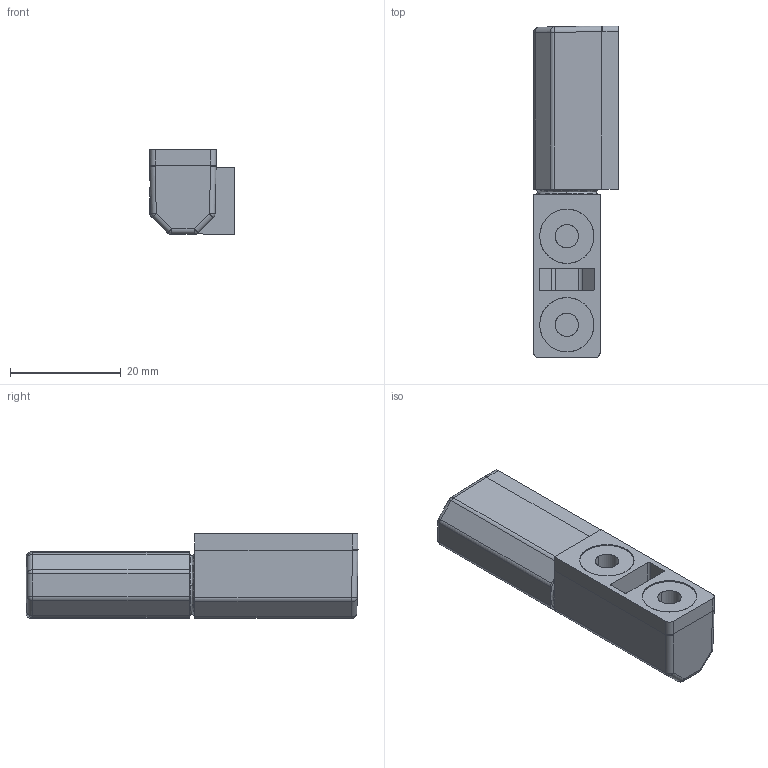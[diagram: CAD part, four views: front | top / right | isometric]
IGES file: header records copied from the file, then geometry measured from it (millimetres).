
Start section: SolidWorks IGES file using analytic representation for surfaces
Global section: file name: Z:\SOLIDWORKS\E\NEW PRODUCT FOR 2014\DLOHI-1260\DLOHI-1260.IGS; native system: SolidWorks 2010; preprocessor: SolidWorks 2010; author: mdk; date: 130407.150918; units: millimetre
Bounding box: 15.3 x 60 x 15.3 mm (x, y, z)
Surface area: 3919.7 mm2 (no closed solid volume)
Topology: 0 solids, 0 shells, 106 faces, 1058 edges, 1054 vertices
Faces by surface type: revolution 58, bspline 48
